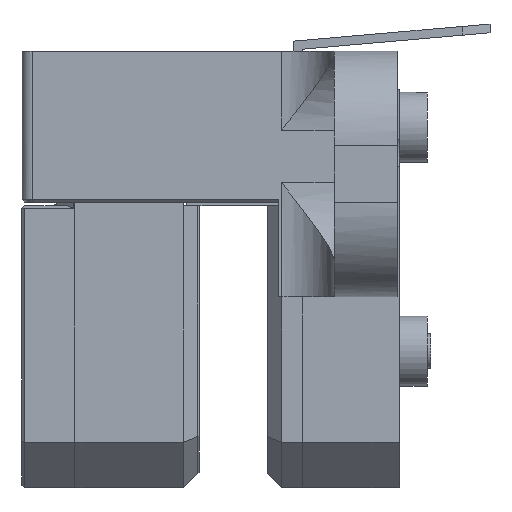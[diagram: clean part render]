
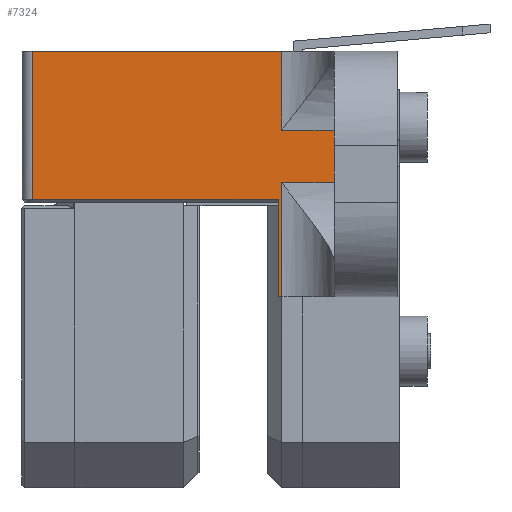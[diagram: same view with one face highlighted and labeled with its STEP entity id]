
A CAD part, left-side view. The second image highlights one B-rep face of the part: STEP entity #7324.
In plain terms, the highlighted planar face has unit normal (-1, 0, 0).
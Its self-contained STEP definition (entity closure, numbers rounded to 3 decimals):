
#40 = EDGE_CURVE ( 'NONE', #3852, #3301, #12196, .T. ) ;
#204 = DIRECTION ( 'NONE',  ( 0., 0., 1. ) ) ;
#835 = EDGE_CURVE ( 'NONE', #12230, #9092, #5821, .T. ) ;
#1098 = VECTOR ( 'NONE', #8342, 1000. ) ;
#1714 = VERTEX_POINT ( 'NONE', #13013 ) ;
#1863 = DIRECTION ( 'NONE',  ( 0., -1., 0. ) ) ;
#1926 = AXIS2_PLACEMENT_3D ( 'NONE', #12936, #2533, #204 ) ;
#1982 = CARTESIAN_POINT ( 'NONE',  ( -7.361, 6.553, -0.796 ) ) ;
#2102 = CARTESIAN_POINT ( 'NONE',  ( -7.361, -0.547, 23.954 ) ) ;
#2509 = ORIENTED_EDGE ( 'NONE', *, *, #11772, .T. ) ;
#2533 = DIRECTION ( 'NONE',  ( -1., 0., 0. ) ) ;
#2603 = VECTOR ( 'NONE', #11605, 1000. ) ;
#2748 = LINE ( 'NONE', #15553, #16421 ) ;
#2948 = EDGE_CURVE ( 'NONE', #12615, #1714, #2748, .T. ) ;
#3059 = ORIENTED_EDGE ( 'NONE', *, *, #40, .T. ) ;
#3105 = LINE ( 'NONE', #13317, #3123 ) ;
#3123 = VECTOR ( 'NONE', #1863, 1000. ) ;
#3294 = LINE ( 'NONE', #16079, #1098 ) ;
#3301 = VERTEX_POINT ( 'NONE', #5017 ) ;
#3316 = LINE ( 'NONE', #14665, #4276 ) ;
#3327 = VERTEX_POINT ( 'NONE', #7777 ) ;
#3401 = EDGE_LOOP ( 'NONE', ( #14567, #15454, #3059, #2509, #11501, #11453, #8559, #10089, #13990, #14585 ) ) ;
#3458 = CARTESIAN_POINT ( 'NONE',  ( -7.361, 6.553, 26.204 ) ) ;
#3852 = VERTEX_POINT ( 'NONE', #3458 ) ;
#4276 = VECTOR ( 'NONE', #14918, 1000. ) ;
#4662 = DIRECTION ( 'NONE',  ( 0., 0., 1. ) ) ;
#4727 = EDGE_CURVE ( 'NONE', #3852, #11073, #3105, .T. ) ;
#5017 = CARTESIAN_POINT ( 'NONE',  ( -7.361, 6.553, 21.984 ) ) ;
#5262 = EDGE_CURVE ( 'NONE', #3327, #8823, #15507, .T. ) ;
#5698 = VECTOR ( 'NONE', #4662, 1000. ) ;
#5821 = LINE ( 'NONE', #15997, #7875 ) ;
#6162 = CARTESIAN_POINT ( 'NONE',  ( -7.361, -0.547, 26.204 ) ) ;
#6851 = LINE ( 'NONE', #9368, #11819 ) ;
#7117 = DIRECTION ( 'NONE',  ( 0., 0., -1. ) ) ;
#7168 = CARTESIAN_POINT ( 'NONE',  ( -7.361, -0.447, 21.984 ) ) ;
#7324 = ADVANCED_FACE ( 'NONE', ( #13604 ), #13700, .T. ) ;
#7777 = CARTESIAN_POINT ( 'NONE',  ( -7.361, -0.547, 19.204 ) ) ;
#7875 = VECTOR ( 'NONE', #11918, 1000. ) ;
#8093 = LINE ( 'NONE', #11021, #5698 ) ;
#8342 = DIRECTION ( 'NONE',  ( 0., 1., 0. ) ) ;
#8559 = ORIENTED_EDGE ( 'NONE', *, *, #5262, .T. ) ;
#8561 = EDGE_CURVE ( 'NONE', #8823, #12230, #3316, .T. ) ;
#8823 = VERTEX_POINT ( 'NONE', #9195 ) ;
#8934 = EDGE_CURVE ( 'NONE', #9092, #15870, #3294, .T. ) ;
#9092 = VERTEX_POINT ( 'NONE', #14139 ) ;
#9195 = CARTESIAN_POINT ( 'NONE',  ( -7.361, -0.547, 22.454 ) ) ;
#9368 = CARTESIAN_POINT ( 'NONE',  ( -7.361, -41.261, 19.204 ) ) ;
#10089 = ORIENTED_EDGE ( 'NONE', *, *, #8561, .T. ) ;
#10098 = VECTOR ( 'NONE', #13917, 1000. ) ;
#10101 = CARTESIAN_POINT ( 'NONE',  ( -7.361, 6.653, 21.984 ) ) ;
#10618 = DIRECTION ( 'NONE',  ( 0., 1., 0. ) ) ;
#10871 = EDGE_CURVE ( 'NONE', #3327, #1714, #6851, .T. ) ;
#11021 = CARTESIAN_POINT ( 'NONE',  ( -7.361, -0.547, -0.796 ) ) ;
#11073 = VERTEX_POINT ( 'NONE', #6162 ) ;
#11453 = ORIENTED_EDGE ( 'NONE', *, *, #10871, .F. ) ;
#11501 = ORIENTED_EDGE ( 'NONE', *, *, #2948, .T. ) ;
#11605 = DIRECTION ( 'NONE',  ( 0., 0., 1. ) ) ;
#11772 = EDGE_CURVE ( 'NONE', #3301, #12615, #15245, .T. ) ;
#11819 = VECTOR ( 'NONE', #10618, 1000. ) ;
#11918 = DIRECTION ( 'NONE',  ( 0., 0., 1. ) ) ;
#12196 = LINE ( 'NONE', #1982, #14161 ) ;
#12230 = VERTEX_POINT ( 'NONE', #12411 ) ;
#12411 = CARTESIAN_POINT ( 'NONE',  ( -7.361, -2.047, 22.454 ) ) ;
#12615 = VERTEX_POINT ( 'NONE', #7168 ) ;
#12936 = CARTESIAN_POINT ( 'NONE',  ( -7.361, 6.653, -0.796 ) ) ;
#13013 = CARTESIAN_POINT ( 'NONE',  ( -7.361, -0.447, 19.204 ) ) ;
#13090 = CARTESIAN_POINT ( 'NONE',  ( -7.361, -0.547, -0.796 ) ) ;
#13317 = CARTESIAN_POINT ( 'NONE',  ( -7.361, -41.261, 26.204 ) ) ;
#13604 = FACE_OUTER_BOUND ( 'NONE', #3401, .T. ) ;
#13700 = PLANE ( 'NONE',  #1926 ) ;
#13917 = DIRECTION ( 'NONE',  ( 0., -1., 0. ) ) ;
#13990 = ORIENTED_EDGE ( 'NONE', *, *, #835, .T. ) ;
#14139 = CARTESIAN_POINT ( 'NONE',  ( -7.361, -2.047, 23.954 ) ) ;
#14161 = VECTOR ( 'NONE', #7117, 1000. ) ;
#14567 = ORIENTED_EDGE ( 'NONE', *, *, #15812, .T. ) ;
#14585 = ORIENTED_EDGE ( 'NONE', *, *, #8934, .T. ) ;
#14665 = CARTESIAN_POINT ( 'NONE',  ( -7.361, 7.239, 22.454 ) ) ;
#14918 = DIRECTION ( 'NONE',  ( 0., -1., 0. ) ) ;
#15245 = LINE ( 'NONE', #10101, #10098 ) ;
#15301 = DIRECTION ( 'NONE',  ( 0., 0., -1. ) ) ;
#15454 = ORIENTED_EDGE ( 'NONE', *, *, #4727, .F. ) ;
#15507 = LINE ( 'NONE', #13090, #2603 ) ;
#15553 = CARTESIAN_POINT ( 'NONE',  ( -7.361, -0.447, -0.796 ) ) ;
#15812 = EDGE_CURVE ( 'NONE', #15870, #11073, #8093, .T. ) ;
#15870 = VERTEX_POINT ( 'NONE', #2102 ) ;
#15997 = CARTESIAN_POINT ( 'NONE',  ( -7.361, -2.047, -0.796 ) ) ;
#16079 = CARTESIAN_POINT ( 'NONE',  ( -7.361, 7.239, 23.954 ) ) ;
#16421 = VECTOR ( 'NONE', #15301, 1000. ) ;
